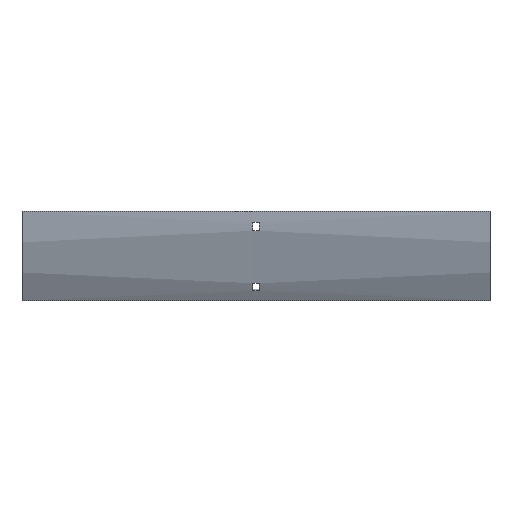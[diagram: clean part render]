
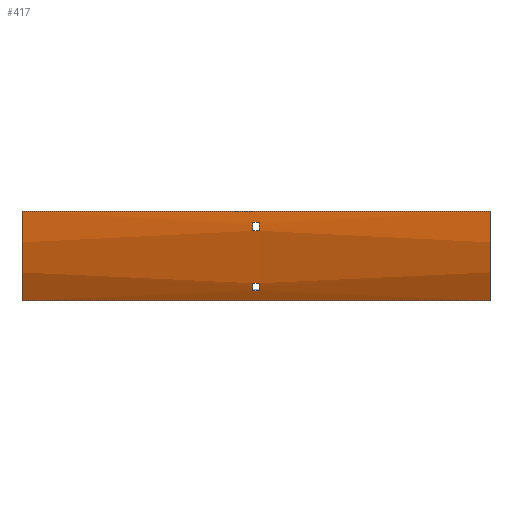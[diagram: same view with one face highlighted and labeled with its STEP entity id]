
A CAD part, front view. The second image highlights one B-rep face of the part: STEP entity #417.
In plain terms, the highlighted cylindrical face has radius 192.5 mm (diameter 385 mm), a partial arc.
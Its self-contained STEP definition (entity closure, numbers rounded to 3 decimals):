
#26 = ORIENTED_EDGE ( 'NONE', *, *, #1670, .F. ) ;
#32 = CARTESIAN_POINT ( 'NONE',  ( 252., -76.215, -77.489 ) ) ;
#44 = CIRCLE ( 'NONE', #1577, 192.5 ) ;
#60 = VECTOR ( 'NONE', #365, 1000. ) ;
#62 = CARTESIAN_POINT ( 'NONE',  ( 3.25, -92.126, -12. ) ) ;
#73 = ORIENTED_EDGE ( 'NONE', *, *, #327, .T. ) ;
#79 = EDGE_LOOP ( 'NONE', ( #717, #26, #651, #508 ) ) ;
#80 = CARTESIAN_POINT ( 'NONE',  ( 3.25, -91.351, -21. ) ) ;
#95 = ORIENTED_EDGE ( 'NONE', *, *, #306, .T. ) ;
#105 = CARTESIAN_POINT ( 'NONE',  ( 252., -66.71, -96.25 ) ) ;
#142 = AXIS2_PLACEMENT_3D ( 'NONE', #455, #713, #321 ) ;
#147 = VERTEX_POINT ( 'NONE', #828 ) ;
#166 = CARTESIAN_POINT ( 'NONE',  ( -3.25, -72.386, -85.671 ) ) ;
#217 = VERTEX_POINT ( 'NONE', #1375 ) ;
#224 = ORIENTED_EDGE ( 'NONE', *, *, #1671, .T. ) ;
#252 = CARTESIAN_POINT ( 'NONE',  ( 252., 100., 0. ) ) ;
#288 = DIRECTION ( 'NONE',  ( 1., 0., 0. ) ) ;
#293 = VERTEX_POINT ( 'NONE', #1681 ) ;
#302 = CARTESIAN_POINT ( 'NONE',  ( 3.25, -72.386, -85.671 ) ) ;
#306 = EDGE_CURVE ( 'NONE', #1118, #488, #1423, .T. ) ;
#321 = DIRECTION ( 'NONE',  ( 0., 0., -1. ) ) ;
#324 = VECTOR ( 'NONE', #902, 1000. ) ;
#327 = EDGE_CURVE ( 'NONE', #647, #147, #1062, .T. ) ;
#365 = DIRECTION ( 'NONE',  ( -1., 0., 0. ) ) ;
#391 = AXIS2_PLACEMENT_3D ( 'NONE', #1682, #1279, #786 ) ;
#405 = FACE_BOUND ( 'NONE', #79, .T. ) ;
#416 = CARTESIAN_POINT ( 'NONE',  ( 252., -72.386, -85.671 ) ) ;
#417 = ADVANCED_FACE ( 'NONE', ( #649, #1063, #405 ), #1431, .T. ) ;
#455 = CARTESIAN_POINT ( 'NONE',  ( 252., 100., 0. ) ) ;
#456 = VERTEX_POINT ( 'NONE', #1615 ) ;
#467 = EDGE_CURVE ( 'NONE', #1206, #1438, #1359, .T. ) ;
#472 = AXIS2_PLACEMENT_3D ( 'NONE', #1096, #1611, #979 ) ;
#481 = CARTESIAN_POINT ( 'NONE',  ( -252., -92.5, 0. ) ) ;
#488 = VERTEX_POINT ( 'NONE', #1479 ) ;
#497 = EDGE_LOOP ( 'NONE', ( #73, #1171, #752, #966 ) ) ;
#500 = AXIS2_PLACEMENT_3D ( 'NONE', #252, #785, #1181 ) ;
#508 = ORIENTED_EDGE ( 'NONE', *, *, #1661, .F. ) ;
#561 = CARTESIAN_POINT ( 'NONE',  ( -3.25, 100., 0. ) ) ;
#645 = CARTESIAN_POINT ( 'NONE',  ( 252., -92.5, 0. ) ) ;
#647 = VERTEX_POINT ( 'NONE', #481 ) ;
#649 = FACE_OUTER_BOUND ( 'NONE', #497, .T. ) ;
#651 = ORIENTED_EDGE ( 'NONE', *, *, #1100, .F. ) ;
#696 = LINE ( 'NONE', #32, #1189 ) ;
#699 = VECTOR ( 'NONE', #1621, 1000. ) ;
#713 = DIRECTION ( 'NONE',  ( 1., 0., 0. ) ) ;
#716 = CARTESIAN_POINT ( 'NONE',  ( 252., -92.126, -12. ) ) ;
#717 = ORIENTED_EDGE ( 'NONE', *, *, #1352, .F. ) ;
#739 = ORIENTED_EDGE ( 'NONE', *, *, #1519, .T. ) ;
#752 = ORIENTED_EDGE ( 'NONE', *, *, #467, .F. ) ;
#754 = CARTESIAN_POINT ( 'NONE',  ( 3.25, 100., 0. ) ) ;
#785 = DIRECTION ( 'NONE',  ( -1., 0., 0. ) ) ;
#786 = DIRECTION ( 'NONE',  ( 0., 0., -1. ) ) ;
#828 = CARTESIAN_POINT ( 'NONE',  ( -252., -66.71, -96.25 ) ) ;
#829 = LINE ( 'NONE', #914, #324 ) ;
#849 = VERTEX_POINT ( 'NONE', #302 ) ;
#883 = DIRECTION ( 'NONE',  ( 0., 0., 1. ) ) ;
#892 = VECTOR ( 'NONE', #288, 1000. ) ;
#896 = DIRECTION ( 'NONE',  ( 1., 0., 0. ) ) ;
#902 = DIRECTION ( 'NONE',  ( -1., 0., 0. ) ) ;
#914 = CARTESIAN_POINT ( 'NONE',  ( 252., -92.5, 0. ) ) ;
#941 = CIRCLE ( 'NONE', #472, 192.5 ) ;
#949 = DIRECTION ( 'NONE',  ( 0., 0., -1. ) ) ;
#952 = AXIS2_PLACEMENT_3D ( 'NONE', #1154, #896, #949 ) ;
#966 = ORIENTED_EDGE ( 'NONE', *, *, #1197, .T. ) ;
#979 = DIRECTION ( 'NONE',  ( 0., 0., -1. ) ) ;
#1039 = DIRECTION ( 'NONE',  ( -1., 0., 0. ) ) ;
#1062 = CIRCLE ( 'NONE', #952, 192.5 ) ;
#1063 = FACE_BOUND ( 'NONE', #1091, .T. ) ;
#1091 = EDGE_LOOP ( 'NONE', ( #95, #224, #1156, #739 ) ) ;
#1094 = DIRECTION ( 'NONE',  ( 0., 0., 1. ) ) ;
#1096 = CARTESIAN_POINT ( 'NONE',  ( -3.25, 100., 0. ) ) ;
#1100 = EDGE_CURVE ( 'NONE', #849, #456, #44, .T. ) ;
#1118 = VERTEX_POINT ( 'NONE', #80 ) ;
#1154 = CARTESIAN_POINT ( 'NONE',  ( -252., 100., 0. ) ) ;
#1155 = LINE ( 'NONE', #1524, #1484 ) ;
#1156 = ORIENTED_EDGE ( 'NONE', *, *, #1370, .T. ) ;
#1157 = DIRECTION ( 'NONE',  ( -1., 0., 0. ) ) ;
#1171 = ORIENTED_EDGE ( 'NONE', *, *, #1441, .F. ) ;
#1181 = DIRECTION ( 'NONE',  ( 0., 0., 1. ) ) ;
#1189 = VECTOR ( 'NONE', #1480, 1000. ) ;
#1197 = EDGE_CURVE ( 'NONE', #1206, #647, #829, .T. ) ;
#1206 = VERTEX_POINT ( 'NONE', #645 ) ;
#1269 = AXIS2_PLACEMENT_3D ( 'NONE', #561, #1350, #1094 ) ;
#1279 = DIRECTION ( 'NONE',  ( 1., 0., 0. ) ) ;
#1285 = VERTEX_POINT ( 'NONE', #62 ) ;
#1296 = CARTESIAN_POINT ( 'NONE',  ( 252., -91.351, -21. ) ) ;
#1304 = CIRCLE ( 'NONE', #391, 192.5 ) ;
#1350 = DIRECTION ( 'NONE',  ( -1., 0., 0. ) ) ;
#1352 = EDGE_CURVE ( 'NONE', #293, #1667, #941, .T. ) ;
#1359 = CIRCLE ( 'NONE', #142, 192.5 ) ;
#1370 = EDGE_CURVE ( 'NONE', #217, #1285, #1638, .T. ) ;
#1375 = CARTESIAN_POINT ( 'NONE',  ( -3.25, -92.126, -12. ) ) ;
#1423 = LINE ( 'NONE', #1296, #60 ) ;
#1431 = CYLINDRICAL_SURFACE ( 'NONE', #500, 192.5 ) ;
#1438 = VERTEX_POINT ( 'NONE', #105 ) ;
#1441 = EDGE_CURVE ( 'NONE', #1438, #147, #1155, .T. ) ;
#1479 = CARTESIAN_POINT ( 'NONE',  ( -3.25, -91.351, -21. ) ) ;
#1480 = DIRECTION ( 'NONE',  ( -1., 0., 0. ) ) ;
#1484 = VECTOR ( 'NONE', #1039, 1000. ) ;
#1519 = EDGE_CURVE ( 'NONE', #1285, #1118, #1304, .T. ) ;
#1524 = CARTESIAN_POINT ( 'NONE',  ( 252., -66.71, -96.25 ) ) ;
#1565 = CIRCLE ( 'NONE', #1269, 192.5 ) ;
#1577 = AXIS2_PLACEMENT_3D ( 'NONE', #754, #1157, #883 ) ;
#1585 = LINE ( 'NONE', #416, #892 ) ;
#1611 = DIRECTION ( 'NONE',  ( 1., 0., 0. ) ) ;
#1615 = CARTESIAN_POINT ( 'NONE',  ( 3.25, -76.215, -77.489 ) ) ;
#1621 = DIRECTION ( 'NONE',  ( 1., 0., 0. ) ) ;
#1638 = LINE ( 'NONE', #716, #699 ) ;
#1661 = EDGE_CURVE ( 'NONE', #1667, #849, #1585, .T. ) ;
#1667 = VERTEX_POINT ( 'NONE', #166 ) ;
#1670 = EDGE_CURVE ( 'NONE', #456, #293, #696, .T. ) ;
#1671 = EDGE_CURVE ( 'NONE', #488, #217, #1565, .T. ) ;
#1681 = CARTESIAN_POINT ( 'NONE',  ( -3.25, -76.215, -77.489 ) ) ;
#1682 = CARTESIAN_POINT ( 'NONE',  ( 3.25, 100., 0. ) ) ;
